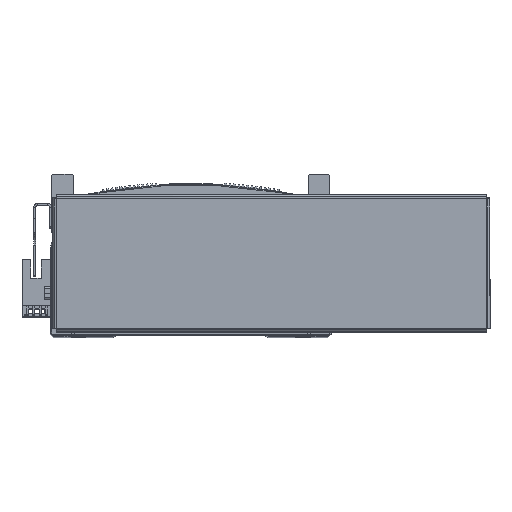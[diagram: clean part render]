
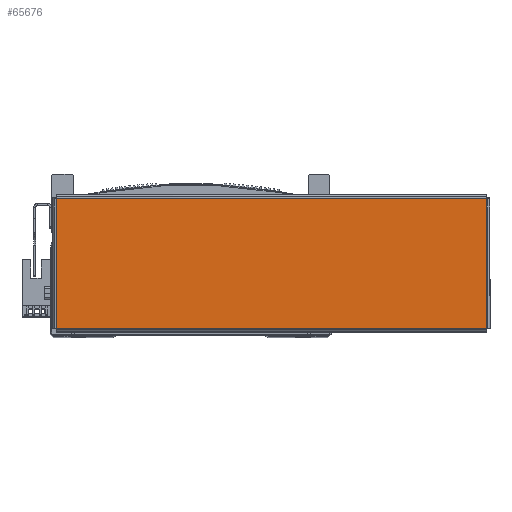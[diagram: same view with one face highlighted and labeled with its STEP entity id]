
A CAD part, top view. The second image highlights one B-rep face of the part: STEP entity #65676.
In plain terms, the highlighted planar face has unit normal (0, 0, 1) as drawn and (0, -1, 0) by its records, which use the part's own axes.
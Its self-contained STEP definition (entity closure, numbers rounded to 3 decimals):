
#7905 = LINE ( 'NONE', #12348, #7907 ) ;
#7907 = VECTOR ( 'NONE', #12360, 1000. ) ;
#7913 = LINE ( 'NONE', #12358, #7915 ) ;
#7915 = VECTOR ( 'NONE', #12335, 1000. ) ;
#7953 = VECTOR ( 'NONE', #12322, 1000. ) ;
#7975 = LINE ( 'NONE', #12289, #7953 ) ;
#8273 = VECTOR ( 'NONE', #12691, 1000. ) ;
#8301 = LINE ( 'NONE', #12710, #8273 ) ;
#12289 = CARTESIAN_POINT ( 'NONE',  ( 103.513, -1., -31.393 ) ) ;
#12322 = DIRECTION ( 'NONE',  ( 0., 0., 1. ) ) ;
#12335 = DIRECTION ( 'NONE',  ( 0., 0., -1. ) ) ;
#12348 = CARTESIAN_POINT ( 'NONE',  ( -103.543, -1., -31.363 ) ) ;
#12358 = CARTESIAN_POINT ( 'NONE',  ( -103.513, -1., 31.393 ) ) ;
#12360 = DIRECTION ( 'NONE',  ( 1., 0., 0. ) ) ;
#12421 = CARTESIAN_POINT ( 'NONE',  ( -103.513, -1., -31.363 ) ) ;
#12657 = CARTESIAN_POINT ( 'NONE',  ( -103.513, -1., 31.363 ) ) ;
#12673 = CARTESIAN_POINT ( 'NONE',  ( 103.513, -1., 31.363 ) ) ;
#12691 = DIRECTION ( 'NONE',  ( -1., 0., 0. ) ) ;
#12710 = CARTESIAN_POINT ( 'NONE',  ( 103.543, -1., 31.363 ) ) ;
#12783 = CARTESIAN_POINT ( 'NONE',  ( 103.513, -1., -31.363 ) ) ;
#15391 = VERTEX_POINT ( 'NONE', #12783 ) ;
#15406 = VERTEX_POINT ( 'NONE', #12421 ) ;
#15430 = VERTEX_POINT ( 'NONE', #12657 ) ;
#15441 = VERTEX_POINT ( 'NONE', #12673 ) ;
#25531 = FACE_OUTER_BOUND ( 'NONE', #26677, .T. ) ;
#26677 = EDGE_LOOP ( 'NONE', ( #29181, #29177, #29138, #29191 ) ) ;
#29138 = ORIENTED_EDGE ( 'NONE', *, *, #44508, .T. ) ;
#29177 = ORIENTED_EDGE ( 'NONE', *, *, #44510, .T. ) ;
#29181 = ORIENTED_EDGE ( 'NONE', *, *, #44698, .T. ) ;
#29191 = ORIENTED_EDGE ( 'NONE', *, *, #44497, .T. ) ;
#44497 = EDGE_CURVE ( 'NONE', #15391, #15441, #7975, .T. ) ;
#44508 = EDGE_CURVE ( 'NONE', #15406, #15391, #7905, .T. ) ;
#44510 = EDGE_CURVE ( 'NONE', #15430, #15406, #7913, .T. ) ;
#44698 = EDGE_CURVE ( 'NONE', #15441, #15430, #8301, .T. ) ;
#59990 = AXIS2_PLACEMENT_3D ( 'NONE', #63305, #63272, #63306 ) ;
#63272 = DIRECTION ( 'NONE',  ( 0., 1., 0. ) ) ;
#63289 = PLANE ( 'NONE',  #59990 ) ;
#63305 = CARTESIAN_POINT ( 'NONE',  ( 0., -1., 0. ) ) ;
#63306 = DIRECTION ( 'NONE',  ( 0., 0., 1. ) ) ;
#65676 = ADVANCED_FACE ( 'NONE', ( #25531 ), #63289, .F. ) ;
